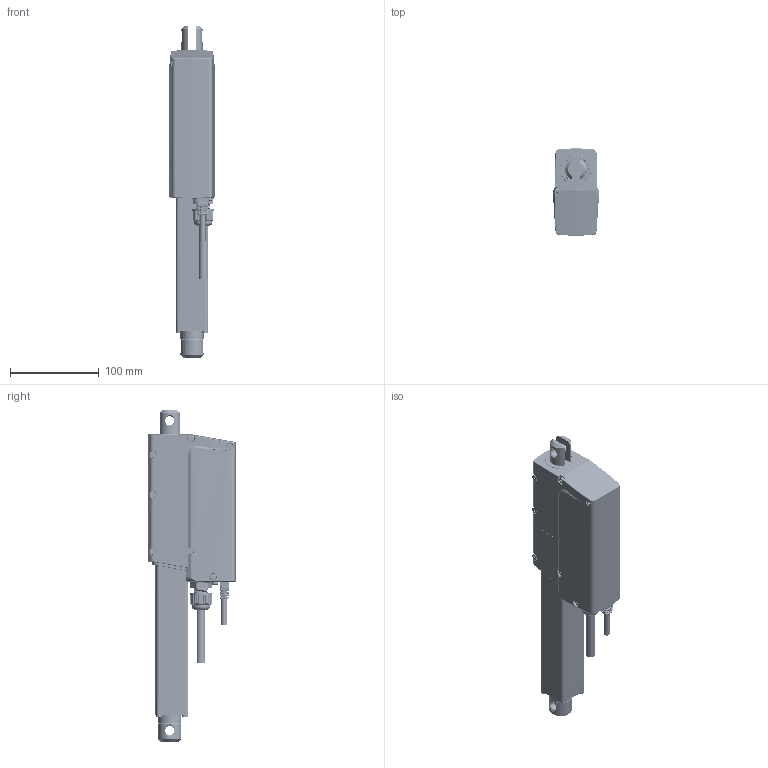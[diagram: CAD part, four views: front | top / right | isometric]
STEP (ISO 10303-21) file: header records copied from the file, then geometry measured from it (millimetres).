
FILE_DESCRIPTION (( 'STEP AP203' ), '1' );
FILE_NAME ('3D_SR1.STEP', '2021-09-28T10:44:34', ( '' ), ( '' ), 'SwSTEP 2.0', 'SolidWorks 2015', '' );
FILE_SCHEMA (( 'CONFIG_CONTROL_DESIGN' ));
Products named in the file (1): 3D_SR1
Bounding box: 51.81 x 98.6 x 375.01 mm (x, y, z)
Volume: 360498.6 mm3; surface area: 296227.8 mm2
Topology: 27 solids, 27 shells, 7332 faces, 18564 edges, 11380 vertices
Faces by surface type: cylinder 2767, bspline 2061, plane 1712, cone 447, torus 260, sphere 85
Entity records: 329566 total; most frequent: CARTESIAN_POINT 177119, ORIENTED_EDGE 36970, DIRECTION 26070, EDGE_CURVE 18485, VERTEX_POINT 11382, AXIS2_PLACEMENT_3D 9556, EDGE_LOOP 7573, FACE_OUTER_BOUND 7332
